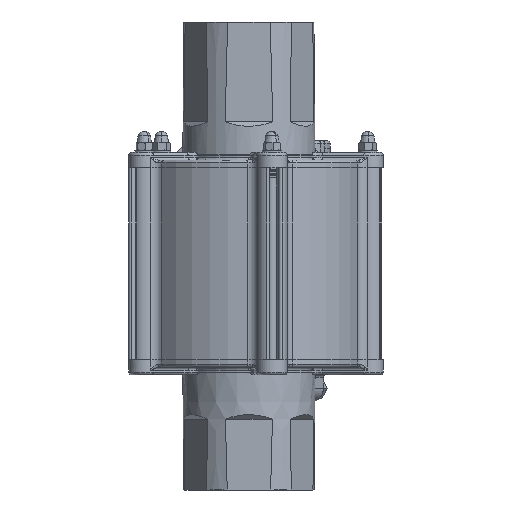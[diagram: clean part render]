
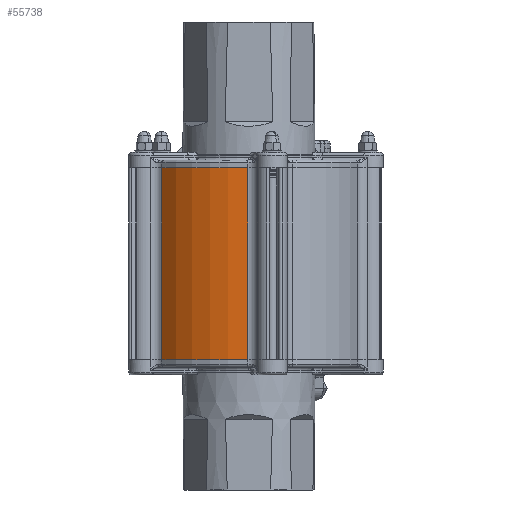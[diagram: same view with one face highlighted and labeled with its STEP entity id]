
A CAD part, front view. The second image highlights one B-rep face of the part: STEP entity #55738.
In plain terms, the highlighted cylindrical face has radius 59.8 mm (diameter 119.6 mm), a partial arc.
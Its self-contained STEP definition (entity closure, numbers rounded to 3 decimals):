
#551 = VECTOR ( 'NONE', #39927, 1000. ) ;
#1986 = ORIENTED_EDGE ( 'NONE', *, *, #25428, .F. ) ;
#7467 = CYLINDRICAL_SURFACE ( 'NONE', #45962, 59.8 ) ;
#7975 = VERTEX_POINT ( 'NONE', #75524 ) ;
#8956 = CIRCLE ( 'NONE', #26539, 59.8 ) ;
#19987 = ORIENTED_EDGE ( 'NONE', *, *, #29986, .T. ) ;
#20870 = EDGE_CURVE ( 'NONE', #23794, #49441, #69506, .T. ) ;
#21054 = CIRCLE ( 'NONE', #33817, 59.8 ) ;
#23794 = VERTEX_POINT ( 'NONE', #25933 ) ;
#24161 = DIRECTION ( 'NONE',  ( 0., 0., 1. ) ) ;
#25428 = EDGE_CURVE ( 'NONE', #23794, #7975, #8956, .T. ) ;
#25612 = ORIENTED_EDGE ( 'NONE', *, *, #20870, .T. ) ;
#25638 = CARTESIAN_POINT ( 'NONE',  ( -45.438, -38.877, 0. ) ) ;
#25933 = CARTESIAN_POINT ( 'NONE',  ( -45.438, -38.877, 100. ) ) ;
#26067 = CARTESIAN_POINT ( 'NONE',  ( 0., 0., 100. ) ) ;
#26539 = AXIS2_PLACEMENT_3D ( 'NONE', #40937, #90531, #48077 ) ;
#26922 = EDGE_CURVE ( 'NONE', #49441, #37261, #21054, .T. ) ;
#29986 = EDGE_CURVE ( 'NONE', #37261, #7975, #36523, .T. ) ;
#33817 = AXIS2_PLACEMENT_3D ( 'NONE', #66775, #24161, #73945 ) ;
#36523 = LINE ( 'NONE', #53896, #551 ) ;
#37261 = VERTEX_POINT ( 'NONE', #45896 ) ;
#39927 = DIRECTION ( 'NONE',  ( 0., 0., 1. ) ) ;
#40937 = CARTESIAN_POINT ( 'NONE',  ( 0., 0., 100. ) ) ;
#45896 = CARTESIAN_POINT ( 'NONE',  ( -0.535, -59.798, 0. ) ) ;
#45962 = AXIS2_PLACEMENT_3D ( 'NONE', #26067, #75801, #61857 ) ;
#48077 = DIRECTION ( 'NONE',  ( 1., 0., 0. ) ) ;
#49441 = VERTEX_POINT ( 'NONE', #25638 ) ;
#53896 = CARTESIAN_POINT ( 'NONE',  ( -0.535, -59.798, 100. ) ) ;
#55738 = ADVANCED_FACE ( 'NONE', ( #89951 ), #7467, .T. ) ;
#61857 = DIRECTION ( 'NONE',  ( -1., 0., 0. ) ) ;
#66775 = CARTESIAN_POINT ( 'NONE',  ( 0., 0., 0. ) ) ;
#69506 = LINE ( 'NONE', #69663, #86158 ) ;
#69663 = CARTESIAN_POINT ( 'NONE',  ( -45.438, -38.877, 100. ) ) ;
#73945 = DIRECTION ( 'NONE',  ( 1., 0., 0. ) ) ;
#75524 = CARTESIAN_POINT ( 'NONE',  ( -0.535, -59.798, 100. ) ) ;
#75801 = DIRECTION ( 'NONE',  ( 0., 0., -1. ) ) ;
#86158 = VECTOR ( 'NONE', #91041, 1000. ) ;
#88993 = ORIENTED_EDGE ( 'NONE', *, *, #26922, .T. ) ;
#89893 = EDGE_LOOP ( 'NONE', ( #1986, #25612, #88993, #19987 ) ) ;
#89951 = FACE_OUTER_BOUND ( 'NONE', #89893, .T. ) ;
#90531 = DIRECTION ( 'NONE',  ( 0., 0., 1. ) ) ;
#91041 = DIRECTION ( 'NONE',  ( 0., 0., -1. ) ) ;
